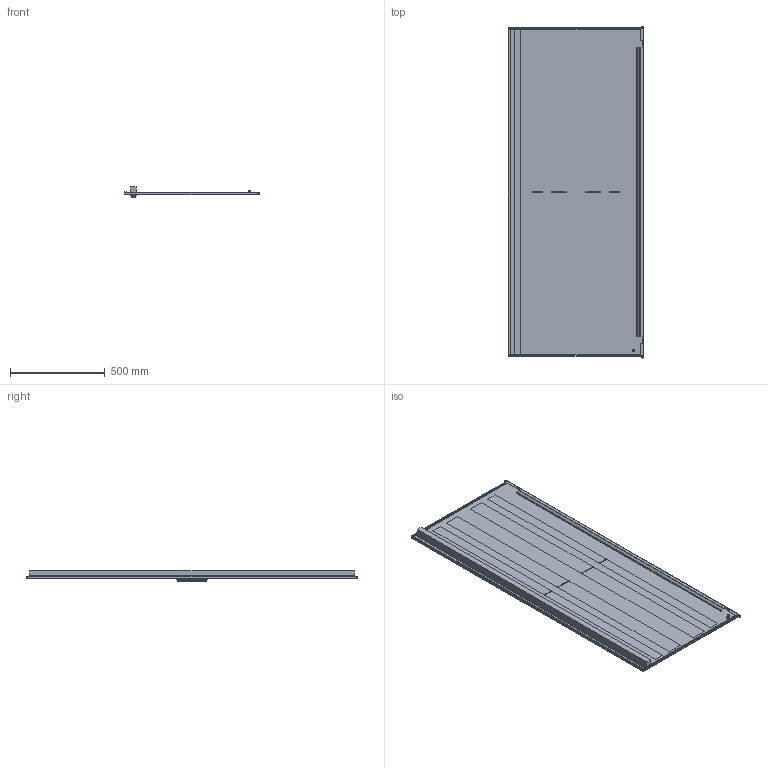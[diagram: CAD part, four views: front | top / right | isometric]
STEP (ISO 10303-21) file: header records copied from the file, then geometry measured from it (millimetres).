
FILE_DESCRIPTION (( 'STEP AP203' ), '1' );
FILE_NAME ('D 180.80 IP Äâåðü òåëåêîììóíèêàöèîííàÿ ïåðôîðèðîâàííàÿ.STEP', '2013-01-15T06:47:36', ( 'System' ), ( '' ), 'SwSTEP 2.0', 'SolidWorks 2012', '' );
FILE_SCHEMA (( 'CONFIG_CONTROL_DESIGN' ));
Length unit declared in the file: millimetre
Products named in the file (1): D 180.80 IP Äâåðü òåëåêîììóíèêàöèîííàÿ ïåðôîðèðîâàííàÿ
Bounding box: 718 x 1753.5 x 55 mm (x, y, z)
Volume: 3996722.3 mm3; surface area: 2940969.8 mm2
Topology: 5 solids, 5 shells, 281 faces, 694 edges, 410 vertices
Faces by surface type: cylinder 142, plane 91, sphere 24, cone 20, torus 4
Entity records: 8339 total; most frequent: DIRECTION 1552, CARTESIAN_POINT 1366, ORIENTED_EDGE 1348, EDGE_CURVE 674, AXIS2_PLACEMENT_3D 596, VERTEX_POINT 410, VECTOR 360, LINE 360
